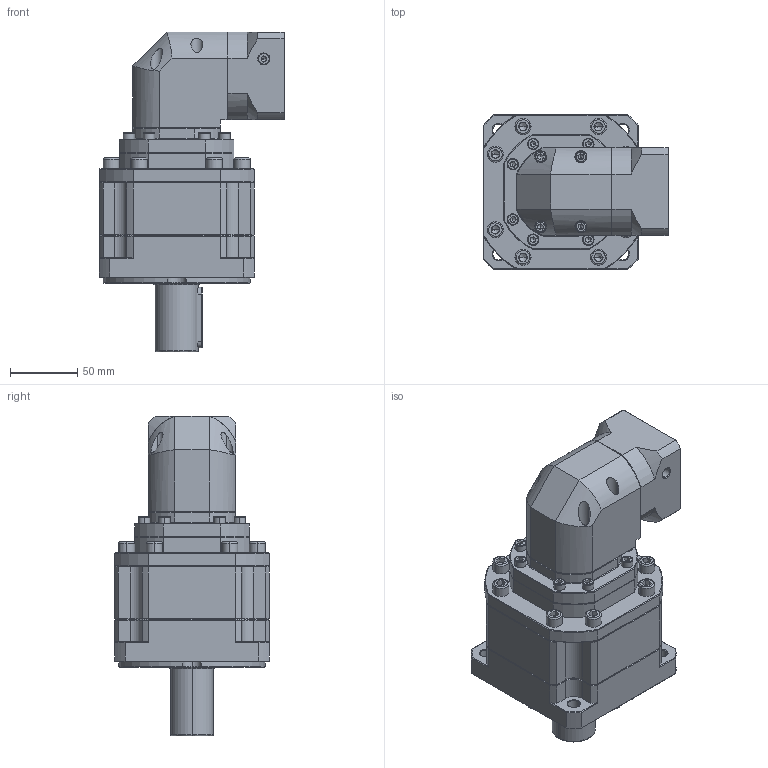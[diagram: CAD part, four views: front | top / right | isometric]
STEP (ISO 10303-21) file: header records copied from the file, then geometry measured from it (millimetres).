
FILE_DESCRIPTION (( 'STEP AP214' ), '1' );
FILE_NAME ('ZBR115A-D32-L3-P2-14-60-75-M5.step', '2023-08-26T14:07:21', ( '' ), ( '' ), 'SwSTEP 2.0', 'SolidWorks 2016', '' );
FILE_SCHEMA (( 'AUTOMOTIVE_DESIGN' ));
Length unit declared in the file: millimetre
Products named in the file (1): ZBR115A-D32-L3-P2-14-60-75-M5
Bounding box: 137.7 x 115 x 237.5 mm (x, y, z)
Volume: 1581995.3 mm3; surface area: 147409.6 mm2
Topology: 6 solids, 6 shells, 2637 faces, 6950 edges, 4433 vertices
Faces by surface type: plane 1299, cylinder 485, bspline 443, cone 390, torus 20
Entity records: 137065 total; most frequent: CARTESIAN_POINT 46400, ORIENTED_EDGE 13776, DIRECTION 11221, EDGE_CURVE 6888, VERTEX_POINT 4433, LINE 4365, VECTOR 4365, AXIS2_PLACEMENT_3D 3428
